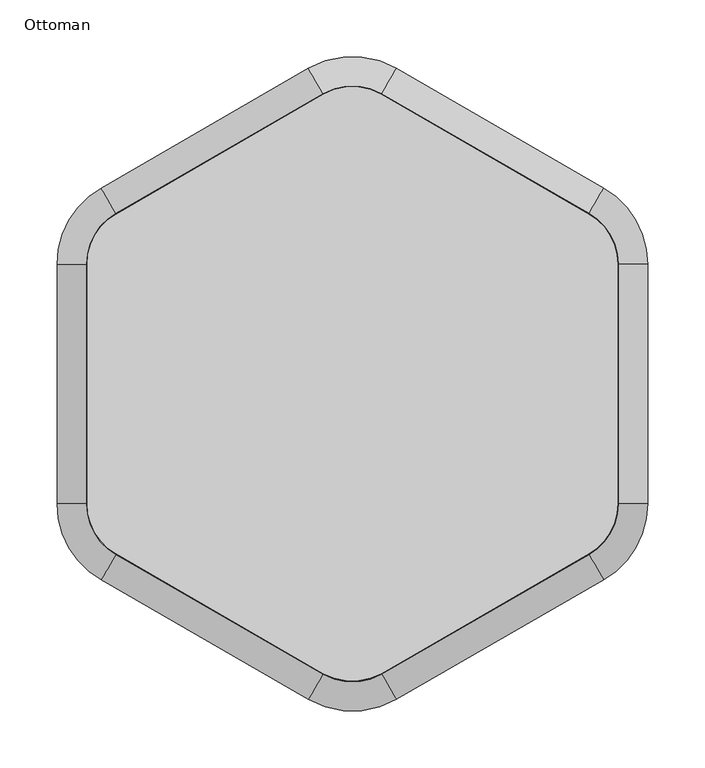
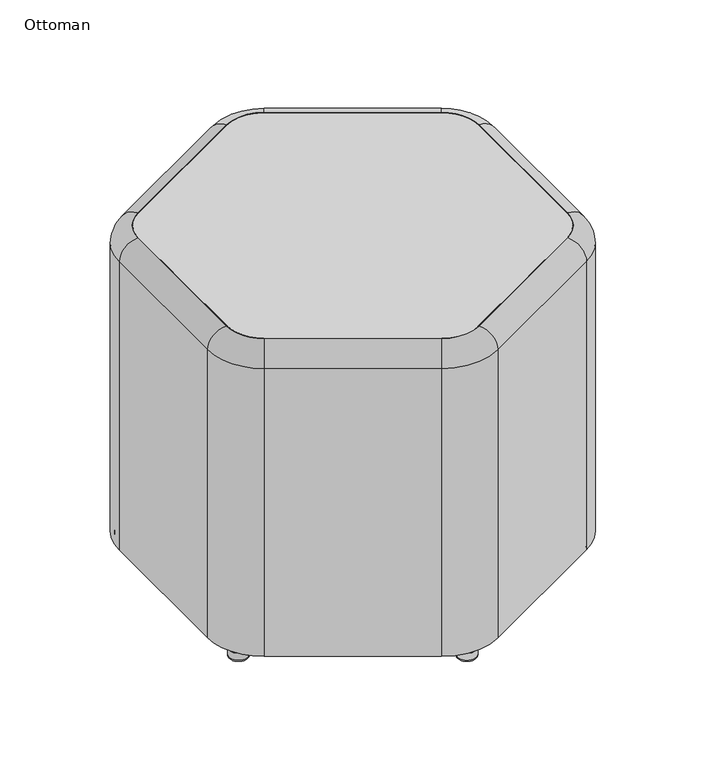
"""IFC4 building model written with IfcOpenShell, lengths in millimetres: furniture geometry, SmithSystem_AM_Seating_Education_Flowform_Ottoman_Hexagon : Ottoman."""

from ifc_helpers import new_model, si_unit, point, frame, origin, place, context, project, spatial, polyline, circle_curve, ellipse_curve, trimmed, source, transform, mapped, element, save
from ifc_brep_helpers import plane_surface, cylinder_surface, revolved_surface, advanced_brep


def ottoman_1566a61f(model_context):
    return source(origin(), model_context, "Body", "AdvancedBrep", [
        advanced_brep(
        [(-219.835148, -171.384471, 431.5460426), (-258.3408199, -104.690695, 431.5460426), (-258.3408199, -104.690695, 16.7640325), (-219.835148, -171.384471, 16.7640325), (-207.1351492, -149.387425, 456.9460426), (-232.9408199, -104.690695, 456.9460426), (-206.7294816, -148.6847881, 16.7640325), (-232.1294847, -104.690695, 16.7640325), (-232.1294847, -104.690695, 456.9460426), (-206.7294816, -148.6847881, 456.9460426), (-38.5056827, -276.0750735, 16.7640325), (-38.5056827, -276.0750735, 431.5460426), (-25.8056839, -254.0780276, 456.9460426), (-25.4000163, -253.3753906, 456.9460426), (-25.4000163, -253.3753906, 16.7640325), (38.5056467, -276.0750736, 431.5460426), (38.5056467, -276.0750736, 16.7640325), (25.8056479, -254.0780276, 456.9460426), (25.3999803, -253.3753907, 16.7640325), (25.3999803, -253.3753907, 456.9460426), (219.8352224, -171.3844075, 16.7640325), (219.8352224, -171.3844075, 431.5460426), (207.1352236, -149.3873616, 456.9460426), (206.729556, -148.6847246, 456.9460426), (206.729556, -148.6847246, 16.7640325), (258.3408922, -104.6723897, 431.5460426), (258.3408922, -104.6723897, 16.7640325), (232.940893, -104.6784062, 456.9460426), (232.1295577, -104.6785984, 16.7640325), (232.1295577, -104.6785984, 456.9460426), (258.340893, 104.6907197, 16.7640325), (258.340893, 104.6907197, 431.5460426), (232.9408199, 104.6907197, 456.9460426), (232.1295577, 104.6907197, 456.9460426), (232.1295577, 104.6907197, 16.7640325), (219.8351352, 171.3845031, 431.5460426), (219.8351352, 171.3845031, 16.7640325), (207.1351406, 149.3874547, 456.9460426), (206.7294732, 148.6848177, 16.7640325), (206.7294732, 148.6848177, 456.9460426), (38.5056115, 276.0750931, 16.7640325), (38.5056115, 276.0750931, 431.5460426), (25.8056169, 254.0780447, 456.9460426), (25.3999495, 253.3754077, 456.9460426), (25.3999495, 253.3754077, 16.7640325), (-38.5057208, 276.0750767, 431.5460426), (-38.5057208, 276.0750767, 16.7640325), (-25.8057168, 254.0780337, 456.9460426), (-25.4000491, 253.3753969, 16.7640325), (-25.4000491, 253.3753969, 456.9460426), (-219.8352381, 171.3843876, 16.7640325), (-219.8352381, 171.3843876, 431.5460426), (-207.1352341, 149.3873446, 456.9460426), (-206.7295664, 148.6847077, 456.9460426), (-206.7295664, 148.6847077, 16.7640325), (-258.3408922, 104.6723786, 431.5460426), (-258.3408922, 104.6723786, 16.7640325), (-232.940893, 104.6783952, 456.9460426), (-232.1295577, 104.6785874, 16.7640325), (-232.1295577, 104.6785874, 456.9460426)],
        [
            (0, 1, circle_curve(frame((-181.3294833, -104.690695, 431.5460426), z_axis=(0.0, 0.0, -1.0), x_axis=(-1.0, 0.0, 0.0)), 77.0113367)),
            (1, 2),
            (2, 3, circle_curve(frame((-181.3294833, -104.690695, 16.7640325), z_axis=(0.0, 0.0, 1.0), x_axis=(-1.0, 0.0, 0.0)), 77.0113367)),
            (3, 0),
            (4, 5, circle_curve(frame((-181.3294833, -104.690695, 456.9460426), z_axis=(0.0, 0.0, -1.0), x_axis=(-1.0, 0.0, 0.0)), 51.6113367)),
            (5, 1, circle_curve(frame((-232.9408199, -104.690695, 431.5460426), z_axis=(0.0, -1.0, 0.0), x_axis=(1.0, 0.0, 0.0)), 25.4)),
            (0, 4, circle_curve(frame((-207.1351492, -149.387425, 431.5460426), z_axis=(-0.8660254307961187, 0.49999995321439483, 0.0), x_axis=(0.49999995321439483, 0.8660254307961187, 0.0)), 25.4)),
            (6, 7, circle_curve(frame((-181.3294833, -104.690695, 16.7640325), z_axis=(0.0, 0.0, -1.0), x_axis=(-1.0, 0.0, 0.0)), 50.8000014)),
            (7, 8),
            (8, 9, circle_curve(frame((-181.3294833, -104.690695, 456.9460426), z_axis=(0.0, 0.0, 1.0), x_axis=(-1.0, 0.0, 0.0)), 50.8000014)),
            (9, 6),
            (3, 10),
            (10, 11),
            (11, 0),
            (11, 12, circle_curve(frame((-25.8056839, -254.0780276, 431.5460426), z_axis=(-0.8660254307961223, 0.4999999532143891, 0.0), x_axis=(0.499999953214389, 0.866025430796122, 0.0)), 25.4)),
            (12, 4),
            (9, 13),
            (13, 14),
            (14, 6),
            (15, 11, circle_curve(frame((-1.8e-05, -209.3812975, 431.5460426), z_axis=(0.0, 0.0, -1.0), x_axis=(-0.4999999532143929, -0.8660254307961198, 0.0)), 77.0113367)),
            (10, 16, circle_curve(frame((-1.8e-05, -209.3812975, 16.7640325), z_axis=(0.0, 0.0, 1.0), x_axis=(-0.4999999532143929, -0.8660254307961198, 0.0)), 77.0113367)),
            (16, 15),
            (17, 12, circle_curve(frame((-1.8e-05, -209.3812975, 456.9460426), z_axis=(0.0, 0.0, -1.0), x_axis=(-0.4999999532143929, -0.8660254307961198, 0.0)), 51.6113367)),
            (15, 17, circle_curve(frame((25.8056479, -254.0780276, 431.5460426), z_axis=(-0.8660254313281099, -0.499999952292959, 0.0), x_axis=(-0.499999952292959, 0.8660254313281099, 0.0)), 25.4)),
            (18, 14, circle_curve(frame((-1.8e-05, -209.3812975, 16.7640325), z_axis=(0.0, 0.0, -1.0), x_axis=(-0.4999999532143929, -0.8660254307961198, 0.0)), 50.8000014)),
            (13, 19, circle_curve(frame((-1.8e-05, -209.3812975, 456.9460426), z_axis=(0.0, 0.0, 1.0), x_axis=(-0.4999999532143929, -0.8660254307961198, 0.0)), 50.8000014)),
            (19, 18),
            (16, 20),
            (20, 21),
            (21, 15),
            (21, 22, circle_curve(frame((207.1352236, -149.3873616, 431.5460426), z_axis=(-0.8660254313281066, -0.4999999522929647, 0.0), x_axis=(-0.4999999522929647, 0.8660254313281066, 0.0)), 25.4)),
            (22, 17),
            (19, 23),
            (23, 24),
            (24, 18),
            (25, 21, circle_curve(frame((181.3295577, -104.6906315, 431.5460426), z_axis=(0.0, 0.0, -1.0), x_axis=(0.4999999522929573, -0.8660254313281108, 0.0)), 77.0113367)),
            (20, 26, circle_curve(frame((181.3295577, -104.6906315, 16.7640325), z_axis=(0.0, 0.0, 1.0), x_axis=(0.4999999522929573, -0.8660254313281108, 0.0)), 77.0113367)),
            (26, 25),
            (27, 22, circle_curve(frame((181.3295577, -104.6906315, 456.9460426), z_axis=(0.0, 0.0, -1.0), x_axis=(0.4999999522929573, -0.8660254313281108, 0.0)), 51.6113367)),
            (25, 27, circle_curve(frame((232.940893, -104.6784062, 431.5460426), z_axis=(0.00023687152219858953, -0.9999999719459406, 0.0), x_axis=(-0.9999999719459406, -0.00023687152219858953, 0.0)), 25.4)),
            (28, 24, circle_curve(frame((181.3295577, -104.6906315, 16.7640325), z_axis=(0.0, 0.0, -1.0), x_axis=(0.4999999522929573, -0.8660254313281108, 0.0)), 50.8000014)),
            (23, 29, circle_curve(frame((181.3295577, -104.6906315, 456.9460426), z_axis=(0.0, 0.0, 1.0), x_axis=(0.4999999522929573, -0.8660254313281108, 0.0)), 50.8000014)),
            (29, 28),
            (26, 30),
            (30, 31),
            (31, 25),
            (31, 32, circle_curve(frame((232.940893, 104.6907197, 431.5460426), z_axis=(0.0, -1.0, 0.0), x_axis=(-1.0, 0.0, 0.0)), 25.4)),
            (32, 27),
            (29, 33),
            (33, 34),
            (34, 28),
            (35, 31, circle_curve(frame((181.3294833, 104.6907197, 431.5460426), z_axis=(0.0, 0.0, -1.0), x_axis=(1.0, 0.0, 0.0)), 77.0113367)),
            (30, 36, circle_curve(frame((181.3294833, 104.6907197, 16.7640325), z_axis=(0.0, 0.0, 1.0), x_axis=(1.0, 0.0, 0.0)), 77.0113367)),
            (36, 35),
            (37, 32, circle_curve(frame((181.3294833, 104.6907197, 456.9460426), z_axis=(0.0, 0.0, -1.0), x_axis=(1.0, 0.0, 0.0)), 51.6113367)),
            (35, 37, circle_curve(frame((207.1351406, 149.3874547, 431.5460426), z_axis=(0.8660255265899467, -0.49999978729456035, 0.0), x_axis=(-0.49999978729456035, -0.8660255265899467, 0.0)), 25.4)),
            (38, 34, circle_curve(frame((181.3294833, 104.6907197, 16.7640325), z_axis=(0.0, 0.0, -1.0), x_axis=(1.0, 0.0, 0.0)), 50.8000014)),
            (33, 39, circle_curve(frame((181.3294833, 104.6907197, 456.9460426), z_axis=(0.0, 0.0, 1.0), x_axis=(1.0, 0.0, 0.0)), 50.8000014)),
            (39, 38),
            (36, 40),
            (40, 41),
            (41, 35),
            (41, 42, circle_curve(frame((25.8056169, 254.0780447, 431.5460426), z_axis=(0.8660255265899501, -0.4999997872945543, 0.0), x_axis=(-0.4999997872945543, -0.8660255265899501, 0.0)), 25.4)),
            (42, 37),
            (39, 43),
            (43, 44),
            (44, 38),
            (45, 41, circle_curve(frame((-4.04e-05, 209.3813097, 431.5460426), z_axis=(0.0, 0.0, -1.0), x_axis=(0.4999997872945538, 0.8660255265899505, 0.0)), 77.0113367)),
            (40, 46, circle_curve(frame((-4.04e-05, 209.3813097, 16.7640325), z_axis=(0.0, 0.0, 1.0), x_axis=(0.4999997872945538, 0.8660255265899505, 0.0)), 77.0113367)),
            (46, 45),
            (47, 42, circle_curve(frame((-4.04e-05, 209.3813097, 456.9460426), z_axis=(0.0, 0.0, -1.0), x_axis=(0.4999997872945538, 0.8660255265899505, 0.0)), 51.6113367)),
            (45, 47, circle_curve(frame((-25.8057168, 254.0780337, 431.5460426), z_axis=(0.8660253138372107, 0.5000001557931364, 0.0), x_axis=(0.5000001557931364, -0.8660253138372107, 0.0)), 25.4)),
            (48, 44, circle_curve(frame((-4.04e-05, 209.3813097, 16.7640325), z_axis=(0.0, 0.0, -1.0), x_axis=(0.4999997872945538, 0.8660255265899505, 0.0)), 50.8000014)),
            (43, 49, circle_curve(frame((-4.04e-05, 209.3813097, 456.9460426), z_axis=(0.0, 0.0, 1.0), x_axis=(0.4999997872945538, 0.8660255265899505, 0.0)), 50.8000014)),
            (49, 48),
            (46, 50),
            (50, 51),
            (51, 45),
            (51, 52, circle_curve(frame((-207.1352341, 149.3873446, 431.5460426), z_axis=(0.8660253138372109, 0.500000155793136, 0.0), x_axis=(0.500000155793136, -0.8660253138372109, 0.0)), 25.4)),
            (52, 47),
            (49, 53),
            (53, 54),
            (54, 48),
            (55, 51, circle_curve(frame((-181.3295577, 104.6906206, 431.5460426), z_axis=(0.0, 0.0, -1.0), x_axis=(-0.5000001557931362, 0.8660253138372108, 0.0)), 77.0113367)),
            (50, 56, circle_curve(frame((-181.3295577, 104.6906206, 16.7640325), z_axis=(0.0, 0.0, 1.0), x_axis=(-0.5000001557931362, 0.8660253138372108, 0.0)), 77.0113367)),
            (56, 55),
            (57, 52, circle_curve(frame((-181.3295577, 104.6906206, 456.9460426), z_axis=(0.0, 0.0, -1.0), x_axis=(-0.5000001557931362, 0.8660253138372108, 0.0)), 51.6113367)),
            (55, 57, circle_curve(frame((-232.940893, 104.6783952, 431.5460426), z_axis=(-0.00023687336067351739, 0.999999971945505, 0.0), x_axis=(0.999999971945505, 0.00023687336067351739, 0.0)), 25.4)),
            (58, 54, circle_curve(frame((-181.3295577, 104.6906206, 16.7640325), z_axis=(0.0, 0.0, -1.0), x_axis=(-0.5000001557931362, 0.8660253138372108, 0.0)), 50.8000014)),
            (53, 59, circle_curve(frame((-181.3295577, 104.6906206, 456.9460426), z_axis=(0.0, 0.0, 1.0), x_axis=(-0.5000001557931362, 0.8660253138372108, 0.0)), 50.8000014)),
            (59, 58),
            (56, 2),
            (1, 55),
            (5, 57),
            (8, 59),
            (7, 58),
        ],
        [
            cylinder_surface(frame((-181.3294833, -104.690695, 0.0), z_axis=(0.0, 0.0, 1.0), x_axis=(-1.0, 0.0, 0.0)), 77.0113367),
            revolved_surface(trimmed(ellipse_curve(frame((-232.9408199, -104.690695, 431.5460426), z_axis=(0.0, 1.0, 0.0), x_axis=(1.0, 0.0, 0.0)), 25.4, 25.4), [point((-258.3408199, -104.690695, 431.5460426))], [point((-232.9408199, -104.690695, 456.9460426))], True, "CARTESIAN"), (-181.3294833, -104.690695, 0.0), (0.0, 0.0, 1.0)),
            revolved_surface(polyline([(-232.12948469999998, -104.690695, 456.9460426), (-232.12948469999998, -104.690695, 16.7640325)]), (-181.3294833, -104.690695, 0.0), (0.0, 0.0, 1.0)),
            plane_surface(frame((-219.835148, -171.384471, 16.7640325), z_axis=(-0.4999999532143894, -0.8660254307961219, 0.0), x_axis=(0.8660254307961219, -0.4999999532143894, 0.0))),
            cylinder_surface(frame((-207.1351492, -149.387425, 431.5460426), z_axis=(-0.866025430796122, 0.499999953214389, 0.0), x_axis=(0.499999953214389, 0.866025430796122, 0.0)), 25.4),
            plane_surface(frame((-206.7294816, -148.6847881, 456.9460426), z_axis=(0.49999995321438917, 0.8660254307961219, 0.0), x_axis=(0.8660254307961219, -0.49999995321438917, 0.0))),
            cylinder_surface(frame((-1.8e-05, -209.3812975, 0.0), z_axis=(0.0, 0.0, 1.0), x_axis=(-0.4999999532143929, -0.8660254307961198, 0.0)), 77.0113367),
            revolved_surface(trimmed(ellipse_curve(frame((-25.8056839, -254.0780276, 431.5460426), z_axis=(-0.8660254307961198, 0.4999999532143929, 0.0), x_axis=(0.4999999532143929, 0.8660254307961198, 0.0)), 25.4, 25.4), [point((-38.5056827, -276.0750735, 431.5460426))], [point((-25.8056839, -254.0780276, 456.9460426))], True, "CARTESIAN"), (-1.8e-05, -209.3812975, 0.0), (0.0, 0.0, 1.0)),
            revolved_surface(polyline([(-25.400016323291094, -253.37539059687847, 456.9460426), (-25.400016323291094, -253.37539059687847, 16.7640325)]), (-1.8e-05, -209.3812975, 0.0), (0.0, 0.0, 1.0)),
            plane_surface(frame((38.5056467, -276.0750736, 16.7640325), z_axis=(0.4999999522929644, -0.8660254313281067, 0.0), x_axis=(0.8660254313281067, 0.4999999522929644, 0.0))),
            cylinder_surface(frame((25.8056479, -254.0780276, 431.5460426), z_axis=(-0.8660254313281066, -0.4999999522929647, 0.0), x_axis=(-0.4999999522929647, 0.8660254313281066, 0.0)), 25.4),
            plane_surface(frame((25.3999803, -253.3753907, 456.9460426), z_axis=(-0.4999999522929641, 0.8660254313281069, 0.0), x_axis=(0.8660254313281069, 0.4999999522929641, 0.0))),
            cylinder_surface(frame((181.3295577, -104.6906315, 0.0), z_axis=(0.0, 0.0, 1.0), x_axis=(0.4999999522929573, -0.8660254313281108, 0.0)), 77.0113367),
            revolved_surface(trimmed(ellipse_curve(frame((207.1352236, -149.3873616, 431.5460426), z_axis=(-0.8660254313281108, -0.4999999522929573, 0.0), x_axis=(-0.4999999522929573, 0.8660254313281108, 0.0)), 25.4, 25.4), [point((219.8352224, -171.3844075, 431.5460426))], [point((207.1352236, -149.3873616, 456.9460426))], True, "CARTESIAN"), (181.3295577, -104.6906315, 0.0), (0.0, 0.0, 1.0)),
            revolved_surface(polyline([(206.72955597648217, -148.68472462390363, 456.9460426), (206.72955597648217, -148.68472462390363, 16.7640325)]), (181.3295577, -104.6906315, 0.0), (0.0, 0.0, 1.0)),
            plane_surface(frame((258.340893, -104.6723897, 16.7640325), z_axis=(1.0, 0.0, 0.0), x_axis=(0.0, 1.0, 0.0))),
            cylinder_surface(frame((232.940893, -104.6785984, 431.5460426), z_axis=(0.0, -1.0, 0.0), x_axis=(-1.0, 0.0, 0.0)), 25.4),
            plane_surface(frame((232.1295577, -104.6785984, 456.9460426), z_axis=(-1.0, 0.0, 0.0), x_axis=(0.0, 1.0, 0.0))),
            cylinder_surface(frame((181.3294833, 104.6907197, 0.0), z_axis=(0.0, 0.0, 1.0), x_axis=(1.0, 0.0, 0.0)), 77.0113367),
            revolved_surface(trimmed(ellipse_curve(frame((232.9408199, 104.6907197, 431.5460426), z_axis=(0.0, -1.0, 0.0), x_axis=(-1.0, 0.0, 0.0)), 25.4, 25.4), [point((258.3408199, 104.6907197, 431.5460426))], [point((232.9408199, 104.6907197, 456.9460426))], True, "CARTESIAN"), (181.3294833, 104.6907197, 0.0), (0.0, 0.0, 1.0)),
            revolved_surface(polyline([(232.12948469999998, 104.6907197, 456.9460426), (232.12948469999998, 104.6907197, 16.7640325)]), (181.3294833, 104.6907197, 0.0), (0.0, 0.0, 1.0)),
            plane_surface(frame((219.8351352, 171.3845031, 16.7640325), z_axis=(0.49999978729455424, 0.8660255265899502, 0.0), x_axis=(-0.8660255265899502, 0.49999978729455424, 0.0))),
            cylinder_surface(frame((207.1351406, 149.3874547, 431.5460426), z_axis=(0.8660255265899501, -0.4999997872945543, 0.0), x_axis=(-0.4999997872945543, -0.8660255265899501, 0.0)), 25.4),
            plane_surface(frame((206.7294732, 148.6848177, 456.9460426), z_axis=(-0.4999997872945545, -0.8660255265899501, 0.0), x_axis=(-0.8660255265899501, 0.4999997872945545, 0.0))),
            cylinder_surface(frame((-4.04e-05, 209.3813097, 0.0), z_axis=(0.0, 0.0, 1.0), x_axis=(0.4999997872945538, 0.8660255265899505, 0.0)), 77.0113367),
            revolved_surface(trimmed(ellipse_curve(frame((25.8056169, 254.0780447, 431.5460426), z_axis=(0.8660255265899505, -0.4999997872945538, 0.0), x_axis=(-0.4999997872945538, -0.8660255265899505, 0.0)), 25.4, 25.4), [point((38.5056115, 276.0750931, 431.5460426))], [point((25.8056169, 254.0780447, 456.9460426))], True, "CARTESIAN"), (-4.04e-05, 209.3813097, 0.0), (0.0, 0.0, 1.0)),
            revolved_surface(polyline([(25.399949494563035, 253.37540766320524, 456.9460426), (25.399949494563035, 253.37540766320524, 16.7640325)]), (-4.04e-05, 209.3813097, 0.0), (0.0, 0.0, 1.0)),
            plane_surface(frame((-38.5057208, 276.0750767, 16.7640325), z_axis=(-0.5000001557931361, 0.8660253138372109, 0.0), x_axis=(-0.8660253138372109, -0.5000001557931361, 0.0))),
            cylinder_surface(frame((-25.8057168, 254.0780337, 431.5460426), z_axis=(0.8660253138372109, 0.500000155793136, 0.0), x_axis=(0.500000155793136, -0.8660253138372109, 0.0)), 25.4),
            plane_surface(frame((-25.4000491, 253.3753969, 456.9460426), z_axis=(0.500000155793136, -0.8660253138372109, 0.0), x_axis=(-0.8660253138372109, -0.500000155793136, 0.0))),
            cylinder_surface(frame((-181.3295577, 104.6906206, 0.0), z_axis=(0.0, 0.0, 1.0), x_axis=(-0.5000001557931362, 0.8660253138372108, 0.0)), 77.0113367),
            revolved_surface(trimmed(ellipse_curve(frame((-207.1352341, 149.3873446, 431.5460426), z_axis=(0.8660253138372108, 0.5000001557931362, 0.0), x_axis=(0.5000001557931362, -0.8660253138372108, 0.0)), 25.4, 25.4), [point((-219.8352381, 171.3843876, 431.5460426))], [point((-207.1352341, 149.3873446, 456.9460426))], True, "CARTESIAN"), (-181.3295577, 104.6906206, 0.0), (0.0, 0.0, 1.0)),
            revolved_surface(polyline([(-206.72956631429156, 148.68470775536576, 456.9460426), (-206.72956631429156, 148.68470775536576, 16.7640325)]), (-181.3295577, 104.6906206, 0.0), (0.0, 0.0, 1.0)),
            plane_surface(frame((-258.340893, 104.6723786, 16.7640325), z_axis=(-1.0, 0.0, 0.0), x_axis=(0.0, -1.0, 0.0))),
            cylinder_surface(frame((-232.940893, 104.6785874, 431.5460426), z_axis=(0.0, 1.0, 0.0), x_axis=(1.0, 0.0, 0.0)), 25.4),
            plane_surface(frame((-232.940893, 104.6783952, 456.9460426), z_axis=(0.0, 0.0, 1.0), x_axis=(0.0, -1.0, 0.0))),
            plane_surface(frame((-232.1295577, 104.6785874, 456.9460426), z_axis=(1.0, 0.0, 0.0), x_axis=(0.0, -1.0, 0.0))),
            plane_surface(frame((-232.1295577, 104.6785874, 16.7640325), z_axis=(0.0, 0.0, -1.0), x_axis=(0.0, -1.0, 0.0))),
        ],
        [
            (0, [[1, 2, 3, 4]]),
            (1, [[5, 6, -1, 7]]),
            (2, [[8, 9, 10, 11]]),
            (3, [[-4, 12, 13, 14]]),
            (4, [[-7, -14, 15, 16]]),
            (5, [[-11, 17, 18, 19]]),
            (6, [[20, -13, 21, 22]]),
            (7, [[23, -15, -20, 24]]),
            (8, [[25, -18, 26, 27]]),
            (9, [[-22, 28, 29, 30]]),
            (10, [[-24, -30, 31, 32]]),
            (11, [[-27, 33, 34, 35]]),
            (12, [[36, -29, 37, 38]]),
            (13, [[39, -31, -36, 40]]),
            (14, [[41, -34, 42, 43]]),
            (15, [[-38, 44, 45, 46]]),
            (16, [[-40, -46, 47, 48]]),
            (17, [[-43, 49, 50, 51]]),
            (18, [[52, -45, 53, 54]]),
            (19, [[55, -47, -52, 56]]),
            (20, [[57, -50, 58, 59]]),
            (21, [[-54, 60, 61, 62]]),
            (22, [[-56, -62, 63, 64]]),
            (23, [[-59, 65, 66, 67]]),
            (24, [[68, -61, 69, 70]]),
            (25, [[71, -63, -68, 72]]),
            (26, [[73, -66, 74, 75]]),
            (27, [[-70, 76, 77, 78]]),
            (28, [[-72, -78, 79, 80]]),
            (29, [[-75, 81, 82, 83]]),
            (30, [[84, -77, 85, 86]]),
            (31, [[87, -79, -84, 88]]),
            (32, [[89, -82, 90, 91]]),
            (33, [[-86, 92, -2, 93]]),
            (34, [[-88, -93, -6, 94]]),
            (35, [[-80, -87, -94, -5, -16, -23, -32, -39, -48, -55, -64, -71], [95, -90, -81, -74, -65, -58, -49, -42, -33, -26, -17, -10]]),
            (36, [[-91, -95, -9, 96]]),
            (37, [[-92, -85, -76, -69, -60, -53, -44, -37, -28, -21, -12, -3], [-83, -89, -96, -8, -19, -25, -35, -41, -51, -57, -67, -73]]),
        ],
    ),
        advanced_brep(
        [(-227.6235433, 144.7976088, 16.7640325), (-239.4927407, 124.1855551, 16.7640325), (-233.558142, 134.4915819, 16.7640325), (-233.558142, 134.4915819, 0.0), (-238.8136021, 125.3649475, 0.0), (-228.3026818, 143.6182164, 0.0), (-240.0977009, 123.1349809, 2.5732587), (-227.018583, 145.848183, 2.5732587), (-240.0977009, 123.1349809, 12.7430085), (-227.018583, 145.848183, 12.7430085), (-239.4927407, 124.1855551, 12.7430085), (-227.6235433, 144.7976088, 12.7430085)],
        [
            (0, 1, circle_curve(frame((-233.558142, 134.4915819, 16.7640325), z_axis=(0.0, 0.0, 1.0), x_axis=(-0.4990165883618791, -0.866592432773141, 0.0)), 11.892588)),
            (1, 2),
            (2, 0),
            (1, 0, circle_curve(frame((-233.558142, 134.4915819, 16.7640325), z_axis=(0.0, 0.0, 1.0), x_axis=(-0.4990165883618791, -0.866592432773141, 0.0)), 11.892588)),
            (3, 4),
            (4, 5, circle_curve(frame((-233.558142, 134.4915819, 0.0), z_axis=(0.0, 0.0, -1.0), x_axis=(-0.4990165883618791, -0.866592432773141, 0.0)), 10.5316342)),
            (5, 3),
            (5, 4, circle_curve(frame((-233.558142, 134.4915819, 0.0), z_axis=(0.0, 0.0, -1.0), x_axis=(-0.4990165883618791, -0.866592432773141, 0.0)), 10.5316342)),
            (4, 6, circle_curve(frame((-238.8136021, 125.3649475, 2.5732587), z_axis=(-0.866592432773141, 0.4990165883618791, 0.0), x_axis=(-0.4990165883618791, -0.866592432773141, 0.0)), 2.5732587)),
            (6, 7, circle_curve(frame((-233.558142, 134.4915819, 2.5732587), z_axis=(0.0, 0.0, -1.0), x_axis=(-0.4990165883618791, -0.866592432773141, 0.0)), 13.1048929)),
            (7, 5, circle_curve(frame((-228.3026818, 143.6182164, 2.5732587), z_axis=(-0.8665924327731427, 0.49901658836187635, 0.0), x_axis=(0.49901658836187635, 0.8665924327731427, 0.0)), 2.5732587)),
            (7, 6, circle_curve(frame((-233.558142, 134.4915819, 2.5732587), z_axis=(0.0, 0.0, -1.0), x_axis=(-0.4990165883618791, -0.866592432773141, 0.0)), 13.1048929)),
            (6, 8),
            (8, 9, circle_curve(frame((-233.558142, 134.4915819, 12.7430085), z_axis=(0.0, 0.0, -1.0), x_axis=(-0.4990165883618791, -0.866592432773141, 0.0)), 13.1048929)),
            (9, 7),
            (9, 8, circle_curve(frame((-233.558142, 134.4915819, 12.7430085), z_axis=(0.0, 0.0, -1.0), x_axis=(-0.4990165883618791, -0.866592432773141, 0.0)), 13.1048929)),
            (8, 10),
            (10, 11, circle_curve(frame((-233.558142, 134.4915819, 12.7430085), z_axis=(0.0, 0.0, -1.0), x_axis=(-0.4990165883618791, -0.866592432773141, 0.0)), 11.892588)),
            (11, 9),
            (11, 10, circle_curve(frame((-233.558142, 134.4915819, 12.7430085), z_axis=(0.0, 0.0, -1.0), x_axis=(-0.4990165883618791, -0.866592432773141, 0.0)), 11.892588)),
            (10, 1),
            (0, 11),
        ],
        [
            plane_surface(frame((-233.558142, 134.4915819, 16.7640325), z_axis=(0.0, 0.0, 1.0), x_axis=(-0.4990165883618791, -0.866592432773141, 0.0))),
            plane_surface(frame((-233.558142, 134.4915819, 0.0), z_axis=(0.0, 0.0, -1.0), x_axis=(-0.4990165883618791, -0.866592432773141, 0.0))),
            revolved_surface(trimmed(ellipse_curve(frame((-238.8136021, 125.3649475, 2.5732587), z_axis=(0.866592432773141, -0.4990165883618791, 0.0), x_axis=(-0.4990165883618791, -0.866592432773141, 0.0)), 2.5732587, 2.5732587), [point((-240.0977009, 123.1349809, 2.5732587))], [point((-238.8136021, 125.3649475, 0.0))], True, "CARTESIAN"), (-233.558142, 134.4915819, 16.7640325), (0.0, 0.0, -1.0)),
            cylinder_surface(frame((-233.558142, 134.4915819, 16.7640325), z_axis=(0.0, 0.0, -1.0), x_axis=(-0.4990165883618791, -0.866592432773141, 0.0)), 13.1048929),
            plane_surface(frame((-233.558142, 134.4915819, 12.7430085), z_axis=(0.0, 0.0, 1.0), x_axis=(-0.4990165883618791, -0.866592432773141, 0.0))),
            cylinder_surface(frame((-233.558142, 134.4915819, 16.7640325), z_axis=(0.0, 0.0, -1.0), x_axis=(-0.4990165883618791, -0.866592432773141, 0.0)), 11.892588),
        ],
        [
            (0, [[1, 2, 3]]),
            (0, [[4, -3, -2]]),
            (1, [[5, 6, 7]]),
            (1, [[-7, 8, -5]]),
            (2, [[-6, 9, 10, 11]]),
            (2, [[-8, -11, 12, -9]]),
            (3, [[-10, 13, 14, 15]]),
            (3, [[-12, -15, 16, -13]]),
            (4, [[-14, 17, 18, 19]]),
            (4, [[-16, -19, 20, -17]]),
            (5, [[-18, 21, -1, 22]]),
            (5, [[-20, -22, -4, -21]]),
        ],
    ),
        advanced_brep(
        [(233.558142, 134.4915819, 16.7640325), (239.4927407, 124.1855551, 16.7640325), (227.6235433, 144.7976088, 16.7640325), (228.3026818, 143.6182164, 0.0), (238.8136021, 125.3649475, 0.0), (233.558142, 134.4915819, 0.0), (227.018583, 145.848183, 2.5732587), (240.0977009, 123.1349809, 2.5732587), (227.018583, 145.848183, 12.7430085), (240.0977009, 123.1349809, 12.7430085), (227.6235433, 144.7976088, 12.7430085), (239.4927407, 124.1855551, 12.7430085)],
        [
            (0, 1),
            (1, 2, circle_curve(frame((233.558142, 134.4915819, 16.7640325), z_axis=(0.0, 0.0, 1.0), x_axis=(0.4990165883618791, -0.866592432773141, 0.0)), 11.892588)),
            (2, 0),
            (2, 1, circle_curve(frame((233.558142, 134.4915819, 16.7640325), z_axis=(0.0, 0.0, 1.0), x_axis=(0.4990165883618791, -0.866592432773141, 0.0)), 11.892588)),
            (3, 4, circle_curve(frame((233.558142, 134.4915819, 0.0), z_axis=(0.0, 0.0, -1.0), x_axis=(0.4990165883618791, -0.866592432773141, 0.0)), 10.5316342)),
            (4, 5),
            (5, 3),
            (4, 3, circle_curve(frame((233.558142, 134.4915819, 0.0), z_axis=(0.0, 0.0, -1.0), x_axis=(0.4990165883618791, -0.866592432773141, 0.0)), 10.5316342)),
            (6, 7, circle_curve(frame((233.558142, 134.4915819, 2.5732587), z_axis=(0.0, 0.0, -1.0), x_axis=(0.4990165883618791, -0.866592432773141, 0.0)), 13.1048929)),
            (7, 4, circle_curve(frame((238.8136021, 125.3649475, 2.5732587), z_axis=(0.866592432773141, 0.4990165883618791, 0.0), x_axis=(0.4990165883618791, -0.866592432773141, 0.0)), 2.5732587)),
            (3, 6, circle_curve(frame((228.3026818, 143.6182164, 2.5732587), z_axis=(0.8665924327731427, 0.49901658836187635, 0.0), x_axis=(-0.49901658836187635, 0.8665924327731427, 0.0)), 2.5732587)),
            (7, 6, circle_curve(frame((233.558142, 134.4915819, 2.5732587), z_axis=(0.0, 0.0, -1.0), x_axis=(0.4990165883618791, -0.866592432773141, 0.0)), 13.1048929)),
            (8, 9, circle_curve(frame((233.558142, 134.4915819, 12.7430085), z_axis=(0.0, 0.0, -1.0), x_axis=(0.4990165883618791, -0.866592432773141, 0.0)), 13.1048929)),
            (9, 7),
            (6, 8),
            (9, 8, circle_curve(frame((233.558142, 134.4915819, 12.7430085), z_axis=(0.0, 0.0, -1.0), x_axis=(0.4990165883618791, -0.866592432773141, 0.0)), 13.1048929)),
            (10, 11, circle_curve(frame((233.558142, 134.4915819, 12.7430085), z_axis=(0.0, 0.0, -1.0), x_axis=(0.4990165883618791, -0.866592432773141, 0.0)), 11.892588)),
            (11, 9),
            (8, 10),
            (11, 10, circle_curve(frame((233.558142, 134.4915819, 12.7430085), z_axis=(0.0, 0.0, -1.0), x_axis=(0.4990165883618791, -0.866592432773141, 0.0)), 11.892588)),
            (1, 11),
            (10, 2),
        ],
        [
            plane_surface(frame((233.558142, 134.4915819, 16.7640325), z_axis=(0.0, 0.0, 1.0), x_axis=(0.4990165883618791, -0.866592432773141, 0.0))),
            plane_surface(frame((233.558142, 134.4915819, 0.0), z_axis=(0.0, 0.0, -1.0), x_axis=(0.4990165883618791, -0.866592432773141, 0.0))),
            revolved_surface(trimmed(ellipse_curve(frame((238.8136021, 125.3649475, 2.5732587), z_axis=(-0.866592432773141, -0.4990165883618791, 0.0), x_axis=(0.4990165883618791, -0.866592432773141, 0.0)), 2.5732587, 2.5732587), [point((238.8136021, 125.3649475, 0.0))], [point((240.0977009, 123.1349809, 2.5732587))], True, "CARTESIAN"), (233.558142, 134.4915819, 16.7640325), (0.0, 0.0, 1.0)),
            cylinder_surface(frame((233.558142, 134.4915819, 16.7640325), z_axis=(0.0, 0.0, 1.0), x_axis=(0.4990165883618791, -0.866592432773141, 0.0)), 13.1048929),
            plane_surface(frame((233.558142, 134.4915819, 12.7430085), z_axis=(0.0, 0.0, 1.0), x_axis=(0.4990165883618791, -0.866592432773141, 0.0))),
            cylinder_surface(frame((233.558142, 134.4915819, 16.7640325), z_axis=(0.0, 0.0, 1.0), x_axis=(0.4990165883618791, -0.866592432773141, 0.0)), 11.892588),
        ],
        [
            (0, [[1, 2, 3]]),
            (0, [[-3, 4, -1]]),
            (1, [[5, 6, 7]]),
            (1, [[8, -7, -6]]),
            (2, [[9, 10, -5, 11]]),
            (2, [[12, -11, -8, -10]]),
            (3, [[13, 14, -9, 15]]),
            (3, [[16, -15, -12, -14]]),
            (4, [[17, 18, -13, 19]]),
            (4, [[20, -19, -16, -18]]),
            (5, [[-2, 21, -17, 22]]),
            (5, [[-4, -22, -20, -21]]),
        ],
    ),
        advanced_brep(
        [(0.0, 269.5132488, 16.7640325), (11.892588, 269.5132488, 16.7640325), (-11.892588, 269.5132488, 16.7640325), (-10.5316342, 269.5132488, 0.0), (10.5316342, 269.5132488, 0.0), (0.0, 269.5132488, 0.0), (-13.1048929, 269.5132488, 2.5732587), (13.1048929, 269.5132488, 2.5732587), (-13.1048929, 269.5132488, 12.7430085), (13.1048929, 269.5132488, 12.7430085), (-11.892588, 269.5132488, 12.7430085), (11.892588, 269.5132488, 12.7430085)],
        [
            (0, 1),
            (1, 2, circle_curve(frame((0.0, 269.5132488, 16.7640325), z_axis=(0.0, 0.0, 1.0), x_axis=(1.0, 0.0, 0.0)), 11.892588)),
            (2, 0),
            (2, 1, circle_curve(frame((0.0, 269.5132488, 16.7640325), z_axis=(0.0, 0.0, 1.0), x_axis=(1.0, 0.0, 0.0)), 11.892588)),
            (3, 4, circle_curve(frame((0.0, 269.5132488, 0.0), z_axis=(0.0, 0.0, -1.0), x_axis=(1.0, 0.0, 0.0)), 10.5316342)),
            (4, 5),
            (5, 3),
            (4, 3, circle_curve(frame((0.0, 269.5132488, 0.0), z_axis=(0.0, 0.0, -1.0), x_axis=(1.0, 0.0, 0.0)), 10.5316342)),
            (6, 7, circle_curve(frame((0.0, 269.5132488, 2.5732587), z_axis=(0.0, 0.0, -1.0), x_axis=(1.0, 0.0, 0.0)), 13.1048929)),
            (7, 4, circle_curve(frame((10.5316342, 269.5132488, 2.5732587), z_axis=(0.0, 1.0, 0.0), x_axis=(1.0, 0.0, 0.0)), 2.5732587)),
            (3, 6, circle_curve(frame((-10.5316342, 269.5132488, 2.5732587), z_axis=(0.0, 1.0, 0.0), x_axis=(-1.0, 0.0, 0.0)), 2.5732587)),
            (7, 6, circle_curve(frame((0.0, 269.5132488, 2.5732587), z_axis=(0.0, 0.0, -1.0), x_axis=(1.0, 0.0, 0.0)), 13.1048929)),
            (8, 9, circle_curve(frame((0.0, 269.5132488, 12.7430085), z_axis=(0.0, 0.0, -1.0), x_axis=(1.0, 0.0, 0.0)), 13.1048929)),
            (9, 7),
            (6, 8),
            (9, 8, circle_curve(frame((0.0, 269.5132488, 12.7430085), z_axis=(0.0, 0.0, -1.0), x_axis=(1.0, 0.0, 0.0)), 13.1048929)),
            (10, 11, circle_curve(frame((0.0, 269.5132488, 12.7430085), z_axis=(0.0, 0.0, -1.0), x_axis=(1.0, 0.0, 0.0)), 11.892588)),
            (11, 9),
            (8, 10),
            (11, 10, circle_curve(frame((0.0, 269.5132488, 12.7430085), z_axis=(0.0, 0.0, -1.0), x_axis=(1.0, 0.0, 0.0)), 11.892588)),
            (1, 11),
            (10, 2),
        ],
        [
            plane_surface(frame((0.0, 269.5132488, 16.7640325), z_axis=(0.0, 0.0, 1.0), x_axis=(1.0, 0.0, 0.0))),
            plane_surface(frame((0.0, 269.5132488, 0.0), z_axis=(0.0, 0.0, -1.0), x_axis=(1.0, 0.0, 0.0))),
            revolved_surface(trimmed(ellipse_curve(frame((10.5316342, 269.5132488, 2.5732587), z_axis=(0.0, -1.0, 0.0), x_axis=(1.0, 0.0, 0.0)), 2.5732587, 2.5732587), [point((10.5316342, 269.5132488, 0.0))], [point((13.1048929, 269.5132488, 2.5732587))], True, "CARTESIAN"), (0.0, 269.5132488, 16.7640325), (0.0, 0.0, 1.0)),
            cylinder_surface(frame((0.0, 269.5132488, 16.7640325), z_axis=(0.0, 0.0, 1.0), x_axis=(1.0, 0.0, 0.0)), 13.1048929),
            plane_surface(frame((0.0, 269.5132488, 12.7430085), z_axis=(0.0, 0.0, 1.0), x_axis=(1.0, 0.0, 0.0))),
            cylinder_surface(frame((0.0, 269.5132488, 16.7640325), z_axis=(0.0, 0.0, 1.0), x_axis=(1.0, 0.0, 0.0)), 11.892588),
        ],
        [
            (0, [[1, 2, 3]]),
            (0, [[-3, 4, -1]]),
            (1, [[5, 6, 7]]),
            (1, [[8, -7, -6]]),
            (2, [[9, 10, -5, 11]]),
            (2, [[12, -11, -8, -10]]),
            (3, [[13, 14, -9, 15]]),
            (3, [[16, -15, -12, -14]]),
            (4, [[17, 18, -13, 19]]),
            (4, [[20, -19, -16, -18]]),
            (5, [[-2, 21, -17, 22]]),
            (5, [[-4, -22, -20, -21]]),
        ],
    ),
        advanced_brep(
        [(-233.558142, -134.4915819, 16.7640325), (-239.4927407, -124.1855551, 16.7640325), (-227.6235433, -144.7976088, 16.7640325), (-228.3026818, -143.6182164, 0.0), (-238.8136021, -125.3649475, 0.0), (-233.558142, -134.4915819, 0.0), (-227.018583, -145.848183, 2.5732587), (-240.0977009, -123.1349809, 2.5732587), (-227.018583, -145.848183, 12.7430085), (-240.0977009, -123.1349809, 12.7430085), (-227.6235433, -144.7976088, 12.7430085), (-239.4927407, -124.1855551, 12.7430085)],
        [
            (0, 1),
            (1, 2, circle_curve(frame((-233.558142, -134.4915819, 16.7640325), z_axis=(0.0, 0.0, 1.0), x_axis=(-0.4990165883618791, 0.866592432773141, 0.0)), 11.892588)),
            (2, 0),
            (2, 1, circle_curve(frame((-233.558142, -134.4915819, 16.7640325), z_axis=(0.0, 0.0, 1.0), x_axis=(-0.4990165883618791, 0.866592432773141, 0.0)), 11.892588)),
            (3, 4, circle_curve(frame((-233.558142, -134.4915819, 0.0), z_axis=(0.0, 0.0, -1.0), x_axis=(-0.4990165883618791, 0.866592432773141, 0.0)), 10.5316342)),
            (4, 5),
            (5, 3),
            (4, 3, circle_curve(frame((-233.558142, -134.4915819, 0.0), z_axis=(0.0, 0.0, -1.0), x_axis=(-0.4990165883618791, 0.866592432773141, 0.0)), 10.5316342)),
            (6, 7, circle_curve(frame((-233.558142, -134.4915819, 2.5732587), z_axis=(0.0, 0.0, -1.0), x_axis=(-0.4990165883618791, 0.866592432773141, 0.0)), 13.1048929)),
            (7, 4, circle_curve(frame((-238.8136021, -125.3649475, 2.5732587), z_axis=(-0.866592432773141, -0.4990165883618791, 0.0), x_axis=(-0.4990165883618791, 0.866592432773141, 0.0)), 2.5732587)),
            (3, 6, circle_curve(frame((-228.3026818, -143.6182164, 2.5732587), z_axis=(-0.8665924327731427, -0.49901658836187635, 0.0), x_axis=(0.49901658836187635, -0.8665924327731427, 0.0)), 2.5732587)),
            (7, 6, circle_curve(frame((-233.558142, -134.4915819, 2.5732587), z_axis=(0.0, 0.0, -1.0), x_axis=(-0.4990165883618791, 0.866592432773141, 0.0)), 13.1048929)),
            (8, 9, circle_curve(frame((-233.558142, -134.4915819, 12.7430085), z_axis=(0.0, 0.0, -1.0), x_axis=(-0.4990165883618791, 0.866592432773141, 0.0)), 13.1048929)),
            (9, 7),
            (6, 8),
            (9, 8, circle_curve(frame((-233.558142, -134.4915819, 12.7430085), z_axis=(0.0, 0.0, -1.0), x_axis=(-0.4990165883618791, 0.866592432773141, 0.0)), 13.1048929)),
            (10, 11, circle_curve(frame((-233.558142, -134.4915819, 12.7430085), z_axis=(0.0, 0.0, -1.0), x_axis=(-0.4990165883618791, 0.866592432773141, 0.0)), 11.892588)),
            (11, 9),
            (8, 10),
            (11, 10, circle_curve(frame((-233.558142, -134.4915819, 12.7430085), z_axis=(0.0, 0.0, -1.0), x_axis=(-0.4990165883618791, 0.866592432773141, 0.0)), 11.892588)),
            (1, 11),
            (10, 2),
        ],
        [
            plane_surface(frame((-233.558142, -134.4915819, 16.7640325), z_axis=(0.0, 0.0, 1.0), x_axis=(-0.4990165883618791, 0.866592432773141, 0.0))),
            plane_surface(frame((-233.558142, -134.4915819, 0.0), z_axis=(0.0, 0.0, -1.0), x_axis=(-0.4990165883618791, 0.866592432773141, 0.0))),
            revolved_surface(trimmed(ellipse_curve(frame((-238.8136021, -125.3649475, 2.5732587), z_axis=(0.866592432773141, 0.4990165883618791, 0.0), x_axis=(-0.4990165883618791, 0.866592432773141, 0.0)), 2.5732587, 2.5732587), [point((-238.8136021, -125.3649475, 0.0))], [point((-240.0977009, -123.1349809, 2.5732587))], True, "CARTESIAN"), (-233.558142, -134.4915819, 16.7640325), (0.0, 0.0, 1.0)),
            cylinder_surface(frame((-233.558142, -134.4915819, 16.7640325), z_axis=(0.0, 0.0, 1.0), x_axis=(-0.4990165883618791, 0.866592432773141, 0.0)), 13.1048929),
            plane_surface(frame((-233.558142, -134.4915819, 12.7430085), z_axis=(0.0, 0.0, 1.0), x_axis=(-0.4990165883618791, 0.866592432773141, 0.0))),
            cylinder_surface(frame((-233.558142, -134.4915819, 16.7640325), z_axis=(0.0, 0.0, 1.0), x_axis=(-0.4990165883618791, 0.866592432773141, 0.0)), 11.892588),
        ],
        [
            (0, [[1, 2, 3]]),
            (0, [[-3, 4, -1]]),
            (1, [[5, 6, 7]]),
            (1, [[8, -7, -6]]),
            (2, [[9, 10, -5, 11]]),
            (2, [[12, -11, -8, -10]]),
            (3, [[13, 14, -9, 15]]),
            (3, [[16, -15, -12, -14]]),
            (4, [[17, 18, -13, 19]]),
            (4, [[20, -19, -16, -18]]),
            (5, [[-2, 21, -17, 22]]),
            (5, [[-4, -22, -20, -21]]),
        ],
    ),
        advanced_brep(
        [(227.6235433, -144.7976088, 16.7640325), (239.4927407, -124.1855551, 16.7640325), (233.558142, -134.4915819, 16.7640325), (233.558142, -134.4915819, 0.0), (238.8136021, -125.3649475, 0.0), (228.3026818, -143.6182164, 0.0), (240.0977009, -123.1349809, 2.5732587), (227.018583, -145.848183, 2.5732587), (240.0977009, -123.1349809, 12.7430085), (227.018583, -145.848183, 12.7430085), (239.4927407, -124.1855551, 12.7430085), (227.6235433, -144.7976088, 12.7430085)],
        [
            (0, 1, circle_curve(frame((233.558142, -134.4915819, 16.7640325), z_axis=(0.0, 0.0, 1.0), x_axis=(0.4990165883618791, 0.866592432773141, 0.0)), 11.892588)),
            (1, 2),
            (2, 0),
            (1, 0, circle_curve(frame((233.558142, -134.4915819, 16.7640325), z_axis=(0.0, 0.0, 1.0), x_axis=(0.4990165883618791, 0.866592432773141, 0.0)), 11.892588)),
            (3, 4),
            (4, 5, circle_curve(frame((233.558142, -134.4915819, 0.0), z_axis=(0.0, 0.0, -1.0), x_axis=(0.4990165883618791, 0.866592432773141, 0.0)), 10.5316342)),
            (5, 3),
            (5, 4, circle_curve(frame((233.558142, -134.4915819, 0.0), z_axis=(0.0, 0.0, -1.0), x_axis=(0.4990165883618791, 0.866592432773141, 0.0)), 10.5316342)),
            (4, 6, circle_curve(frame((238.8136021, -125.3649475, 2.5732587), z_axis=(0.866592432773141, -0.4990165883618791, 0.0), x_axis=(0.4990165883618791, 0.866592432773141, 0.0)), 2.5732587)),
            (6, 7, circle_curve(frame((233.558142, -134.4915819, 2.5732587), z_axis=(0.0, 0.0, -1.0), x_axis=(0.4990165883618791, 0.866592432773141, 0.0)), 13.1048929)),
            (7, 5, circle_curve(frame((228.3026818, -143.6182164, 2.5732587), z_axis=(0.8665924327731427, -0.49901658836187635, 0.0), x_axis=(-0.49901658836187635, -0.8665924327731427, 0.0)), 2.5732587)),
            (7, 6, circle_curve(frame((233.558142, -134.4915819, 2.5732587), z_axis=(0.0, 0.0, -1.0), x_axis=(0.4990165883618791, 0.866592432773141, 0.0)), 13.1048929)),
            (6, 8),
            (8, 9, circle_curve(frame((233.558142, -134.4915819, 12.7430085), z_axis=(0.0, 0.0, -1.0), x_axis=(0.4990165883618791, 0.866592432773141, 0.0)), 13.1048929)),
            (9, 7),
            (9, 8, circle_curve(frame((233.558142, -134.4915819, 12.7430085), z_axis=(0.0, 0.0, -1.0), x_axis=(0.4990165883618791, 0.866592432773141, 0.0)), 13.1048929)),
            (8, 10),
            (10, 11, circle_curve(frame((233.558142, -134.4915819, 12.7430085), z_axis=(0.0, 0.0, -1.0), x_axis=(0.4990165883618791, 0.866592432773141, 0.0)), 11.892588)),
            (11, 9),
            (11, 10, circle_curve(frame((233.558142, -134.4915819, 12.7430085), z_axis=(0.0, 0.0, -1.0), x_axis=(0.4990165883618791, 0.866592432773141, 0.0)), 11.892588)),
            (10, 1),
            (0, 11),
        ],
        [
            plane_surface(frame((233.558142, -134.4915819, 16.7640325), z_axis=(0.0, 0.0, 1.0), x_axis=(0.4990165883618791, 0.866592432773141, 0.0))),
            plane_surface(frame((233.558142, -134.4915819, 0.0), z_axis=(0.0, 0.0, -1.0), x_axis=(0.4990165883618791, 0.866592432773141, 0.0))),
            revolved_surface(trimmed(ellipse_curve(frame((238.8136021, -125.3649475, 2.5732587), z_axis=(-0.866592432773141, 0.4990165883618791, 0.0), x_axis=(0.4990165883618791, 0.866592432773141, 0.0)), 2.5732587, 2.5732587), [point((240.0977009, -123.1349809, 2.5732587))], [point((238.8136021, -125.3649475, 0.0))], True, "CARTESIAN"), (233.558142, -134.4915819, 16.7640325), (0.0, 0.0, -1.0)),
            cylinder_surface(frame((233.558142, -134.4915819, 16.7640325), z_axis=(0.0, 0.0, -1.0), x_axis=(0.4990165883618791, 0.866592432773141, 0.0)), 13.1048929),
            plane_surface(frame((233.558142, -134.4915819, 12.7430085), z_axis=(0.0, 0.0, 1.0), x_axis=(0.4990165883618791, 0.866592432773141, 0.0))),
            cylinder_surface(frame((233.558142, -134.4915819, 16.7640325), z_axis=(0.0, 0.0, -1.0), x_axis=(0.4990165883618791, 0.866592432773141, 0.0)), 11.892588),
        ],
        [
            (0, [[1, 2, 3]]),
            (0, [[4, -3, -2]]),
            (1, [[5, 6, 7]]),
            (1, [[-7, 8, -5]]),
            (2, [[-6, 9, 10, 11]]),
            (2, [[-8, -11, 12, -9]]),
            (3, [[-10, 13, 14, 15]]),
            (3, [[-12, -15, 16, -13]]),
            (4, [[-14, 17, 18, 19]]),
            (4, [[-16, -19, 20, -17]]),
            (5, [[-18, 21, -1, 22]]),
            (5, [[-20, -22, -4, -21]]),
        ],
    ),
        advanced_brep(
        [(-11.892588, -269.5132488, 16.7640325), (11.892588, -269.5132488, 16.7640325), (0.0, -269.5132488, 16.7640325), (0.0, -269.5132488, 0.0), (10.5316342, -269.5132488, 0.0), (-10.5316342, -269.5132488, 0.0), (13.1048929, -269.5132488, 2.5732587), (-13.1048929, -269.5132488, 2.5732587), (13.1048929, -269.5132488, 12.7430085), (-13.1048929, -269.5132488, 12.7430085), (11.892588, -269.5132488, 12.7430085), (-11.892588, -269.5132488, 12.7430085)],
        [
            (0, 1, circle_curve(frame((0.0, -269.5132488, 16.7640325), z_axis=(0.0, 0.0, 1.0), x_axis=(1.0, 0.0, 0.0)), 11.892588)),
            (1, 2),
            (2, 0),
            (1, 0, circle_curve(frame((0.0, -269.5132488, 16.7640325), z_axis=(0.0, 0.0, 1.0), x_axis=(1.0, 0.0, 0.0)), 11.892588)),
            (3, 4),
            (4, 5, circle_curve(frame((0.0, -269.5132488, 0.0), z_axis=(0.0, 0.0, -1.0), x_axis=(1.0, 0.0, 0.0)), 10.5316342)),
            (5, 3),
            (5, 4, circle_curve(frame((0.0, -269.5132488, 0.0), z_axis=(0.0, 0.0, -1.0), x_axis=(1.0, 0.0, 0.0)), 10.5316342)),
            (4, 6, circle_curve(frame((10.5316342, -269.5132488, 2.5732587), z_axis=(0.0, -1.0, 0.0), x_axis=(1.0, 0.0, 0.0)), 2.5732587)),
            (6, 7, circle_curve(frame((0.0, -269.5132488, 2.5732587), z_axis=(0.0, 0.0, -1.0), x_axis=(1.0, 0.0, 0.0)), 13.1048929)),
            (7, 5, circle_curve(frame((-10.5316342, -269.5132488, 2.5732587), z_axis=(0.0, -1.0, 0.0), x_axis=(-1.0, 0.0, 0.0)), 2.5732587)),
            (7, 6, circle_curve(frame((0.0, -269.5132488, 2.5732587), z_axis=(0.0, 0.0, -1.0), x_axis=(1.0, 0.0, 0.0)), 13.1048929)),
            (6, 8),
            (8, 9, circle_curve(frame((0.0, -269.5132488, 12.7430085), z_axis=(0.0, 0.0, -1.0), x_axis=(1.0, 0.0, 0.0)), 13.1048929)),
            (9, 7),
            (9, 8, circle_curve(frame((0.0, -269.5132488, 12.7430085), z_axis=(0.0, 0.0, -1.0), x_axis=(1.0, 0.0, 0.0)), 13.1048929)),
            (8, 10),
            (10, 11, circle_curve(frame((0.0, -269.5132488, 12.7430085), z_axis=(0.0, 0.0, -1.0), x_axis=(1.0, 0.0, 0.0)), 11.892588)),
            (11, 9),
            (11, 10, circle_curve(frame((0.0, -269.5132488, 12.7430085), z_axis=(0.0, 0.0, -1.0), x_axis=(1.0, 0.0, 0.0)), 11.892588)),
            (10, 1),
            (0, 11),
        ],
        [
            plane_surface(frame((0.0, -269.5132488, 16.7640325), z_axis=(0.0, 0.0, 1.0), x_axis=(1.0, 0.0, 0.0))),
            plane_surface(frame((0.0, -269.5132488, 0.0), z_axis=(0.0, 0.0, -1.0), x_axis=(1.0, 0.0, 0.0))),
            revolved_surface(trimmed(ellipse_curve(frame((10.5316342, -269.5132488, 2.5732587), z_axis=(0.0, 1.0, 0.0), x_axis=(1.0, 0.0, 0.0)), 2.5732587, 2.5732587), [point((13.1048929, -269.5132488, 2.5732587))], [point((10.5316342, -269.5132488, 0.0))], True, "CARTESIAN"), (0.0, -269.5132488, 16.7640325), (0.0, 0.0, -1.0)),
            cylinder_surface(frame((0.0, -269.5132488, 16.7640325), z_axis=(0.0, 0.0, -1.0), x_axis=(1.0, 0.0, 0.0)), 13.1048929),
            plane_surface(frame((0.0, -269.5132488, 12.7430085), z_axis=(0.0, 0.0, 1.0), x_axis=(1.0, 0.0, 0.0))),
            cylinder_surface(frame((0.0, -269.5132488, 16.7640325), z_axis=(0.0, 0.0, -1.0), x_axis=(1.0, 0.0, 0.0)), 11.892588),
        ],
        [
            (0, [[1, 2, 3]]),
            (0, [[4, -3, -2]]),
            (1, [[5, 6, 7]]),
            (1, [[-7, 8, -5]]),
            (2, [[-6, 9, 10, 11]]),
            (2, [[-8, -11, 12, -9]]),
            (3, [[-10, 13, 14, 15]]),
            (3, [[-12, -15, 16, -13]]),
            (4, [[-14, 17, 18, 19]]),
            (4, [[-16, -19, 20, -17]]),
            (5, [[-18, 21, -1, 22]]),
            (5, [[-20, -22, -4, -21]]),
        ],
    ),
        advanced_brep(
        [(-25.4000484, 253.3753956, 456.9460426), (-206.7295657, 148.6847065, 456.9460426), (-232.1295563, 104.6785874, 456.9460426), (-232.1295563, -104.690695, 456.9460426), (-206.7294809, -148.6847868, 456.9460426), (-25.4000156, -253.3753894, 456.9460426), (25.3999796, -253.3753894, 456.9460426), (206.7295553, -148.6847234, 456.9460426), (232.1295563, -104.6785984, 456.9460426), (232.1295563, 104.6907197, 456.9460426), (206.7294725, 148.6848165, 456.9460426), (25.3999488, 253.3754064, 456.9460426), (-25.4000484, 253.3753956, 16.7640325), (25.3999488, 253.3754064, 16.7640325), (206.7294725, 148.6848165, 16.7640325), (232.1294833, 104.6907197, 16.7640325), (232.1295563, -104.6785984, 16.7640325), (206.7295553, -148.6847234, 16.7640325), (25.3999796, -253.3753894, 16.7640325), (-25.4000156, -253.3753894, 16.7640325), (-206.7294809, -148.6847868, 16.7640325), (-232.1294833, -104.690695, 16.7640325), (-232.1295563, 104.6785874, 16.7640325), (-206.7295657, 148.6847065, 16.7640325)],
        [
            (0, 1),
            (1, 2, circle_curve(frame((-181.3295577, 104.6906206, 456.9460426), z_axis=(0.0, 0.0, 1.0), x_axis=(1.0, 0.0, 0.0)), 50.8)),
            (2, 3),
            (3, 4, circle_curve(frame((-181.3294833, -104.690695, 456.9460426), z_axis=(0.0, 0.0, 1.0), x_axis=(1.0, 0.0, 0.0)), 50.8)),
            (4, 5),
            (5, 6, circle_curve(frame((-1.8e-05, -209.3812975, 456.9460426), z_axis=(0.0, 0.0, 1.0), x_axis=(1.0, 0.0, 0.0)), 50.8)),
            (6, 7),
            (7, 8, circle_curve(frame((181.3295577, -104.6906315, 456.9460426), z_axis=(0.0, 0.0, 1.0), x_axis=(1.0, 0.0, 0.0)), 50.8)),
            (8, 9),
            (9, 10, circle_curve(frame((181.3294833, 104.6907197, 456.9460426), z_axis=(0.0, 0.0, 1.0), x_axis=(1.0, 0.0, 0.0)), 50.8)),
            (10, 11),
            (11, 0, circle_curve(frame((-4.04e-05, 209.3813097, 456.9460426), z_axis=(0.0, 0.0, 1.0), x_axis=(1.0, 0.0, 0.0)), 50.8)),
            (12, 13, circle_curve(frame((-4.04e-05, 209.3813097, 16.7640325), z_axis=(0.0, 0.0, -1.0), x_axis=(1.0, 0.0, 0.0)), 50.8)),
            (13, 14),
            (14, 15, circle_curve(frame((181.3294833, 104.6907197, 16.7640325), z_axis=(0.0, 0.0, -1.0), x_axis=(1.0, 0.0, 0.0)), 50.8)),
            (15, 16),
            (16, 17, circle_curve(frame((181.3295577, -104.6906315, 16.7640325), z_axis=(0.0, 0.0, -1.0), x_axis=(1.0, 0.0, 0.0)), 50.8)),
            (17, 18),
            (18, 19, circle_curve(frame((-1.8e-05, -209.3812975, 16.7640325), z_axis=(0.0, 0.0, -1.0), x_axis=(1.0, 0.0, 0.0)), 50.8)),
            (19, 20),
            (20, 21, circle_curve(frame((-181.3294833, -104.690695, 16.7640325), z_axis=(0.0, 0.0, -1.0), x_axis=(1.0, 0.0, 0.0)), 50.8)),
            (21, 22),
            (22, 23, circle_curve(frame((-181.3295577, 104.6906206, 16.7640325), z_axis=(0.0, 0.0, -1.0), x_axis=(1.0, 0.0, 0.0)), 50.8)),
            (23, 12),
            (0, 12),
            (23, 1),
            (22, 2),
            (3, 21),
            (20, 4),
            (19, 5),
            (18, 6),
            (17, 7),
            (16, 8),
            (9, 15),
            (14, 10),
            (13, 11),
        ],
        [
            plane_surface(frame((-204.538678, 149.9496166, 456.9460426), z_axis=(0.0, 0.0, 1.0), x_axis=(-0.8660253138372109, -0.500000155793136, 0.0))),
            plane_surface(frame((-204.538678, 149.9496166, 16.7640325), z_axis=(0.0, 0.0, -1.0), x_axis=(0.8660253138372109, 0.500000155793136, 0.0))),
            plane_surface(frame((-25.4000484, 253.3753956, 456.9460426), z_axis=(-0.500000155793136, 0.8660253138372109, 0.0), x_axis=(0.0, 0.0, -1.0))),
            cylinder_surface(frame((-181.3295577, 104.6906206, 16.7640325), z_axis=(0.0, 0.0, 1.0), x_axis=(1.0, 0.0, 0.0)), 50.8),
            cylinder_surface(frame((-181.3294833, -104.690695, 16.7640325), z_axis=(0.0, 0.0, 1.0), x_axis=(1.0, 0.0, 0.0)), 50.8),
            plane_surface(frame((-206.7294809, -148.6847868, 456.9460426), z_axis=(-0.49999995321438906, -0.8660254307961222, 0.0), x_axis=(0.0, 0.0, -1.0))),
            cylinder_surface(frame((-1.8e-05, -209.3812975, 16.7640325), z_axis=(0.0, 0.0, 1.0), x_axis=(1.0, 0.0, 0.0)), 50.8),
            plane_surface(frame((25.3999796, -253.3753894, 456.9460426), z_axis=(0.49999995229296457, -0.8660254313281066, 0.0), x_axis=(0.0, 0.0, -1.0))),
            cylinder_surface(frame((181.3295577, -104.6906315, 16.7640325), z_axis=(0.0, 0.0, 1.0), x_axis=(1.0, 0.0, 0.0)), 50.8),
            cylinder_surface(frame((181.3294833, 104.6907197, 16.7640325), z_axis=(0.0, 0.0, 1.0), x_axis=(1.0, 0.0, 0.0)), 50.8),
            plane_surface(frame((206.7294725, 148.6848165, 456.9460426), z_axis=(0.49999978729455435, 0.8660255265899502, 0.0), x_axis=(0.0, 0.0, -1.0))),
            cylinder_surface(frame((-4.04e-05, 209.3813097, 16.7640325), z_axis=(0.0, 0.0, 1.0), x_axis=(1.0, 0.0, 0.0)), 50.8),
            plane_surface(frame((-232.1295563, 104.6785874, 456.9460426), z_axis=(-1.0, 0.0, 0.0), x_axis=(0.0, 0.0, -1.0))),
            plane_surface(frame((232.1295563, -104.6785984, 456.9460426), z_axis=(1.0, 0.0, 0.0), x_axis=(0.0, 0.0, -1.0))),
        ],
        [
            (0, [[1, 2, 3, 4, 5, 6, 7, 8, 9, 10, 11, 12]]),
            (1, [[13, 14, 15, 16, 17, 18, 19, 20, 21, 22, 23, 24]]),
            (2, [[-1, 25, -24, 26]]),
            (3, [[-2, -26, -23, 27]]),
            (4, [[-4, 28, -21, 29]]),
            (5, [[-5, -29, -20, 30]]),
            (6, [[-6, -30, -19, 31]]),
            (7, [[-7, -31, -18, 32]]),
            (8, [[-8, -32, -17, 33]]),
            (9, [[-10, 34, -15, 35]]),
            (10, [[-11, -35, -14, 36]]),
            (11, [[-12, -36, -13, -25]]),
            (12, [[-3, -27, -22, -28]]),
            (13, [[-9, -33, -16, -34]]),
        ],
    ),
    ])


if __name__ == "__main__":
    model = new_model("IFC4")
    model_context = context("Model", 3, world=origin())
    ifc_project = project(units=[si_unit("LENGTHUNIT", "METRE", prefix="MILLI")], contexts=[model_context])
    site = spatial("IfcSite", under=ifc_project)
    building = spatial("IfcBuilding", under=site)
    placement = place(None, origin())
    ottoman_shape = ottoman_1566a61f(model_context)
    element("IfcFurniture", 1, ObjectType="SmithSystem_AM_Seating_Education_Flowform_Ottoman_Hexagon : Ottoman", at=placement, inside=building, context=model_context, shape_type="MappedRepresentation", body=[
        mapped(ottoman_shape, transform((0.0, 0.0, 0.0), x_axis=(1.0, 0.0, 0.0), y_axis=(0.0, 1.0, 0.0), z_axis=(0.0, 0.0, 1.0))),
    ])
    save(model, "model.ifc")
